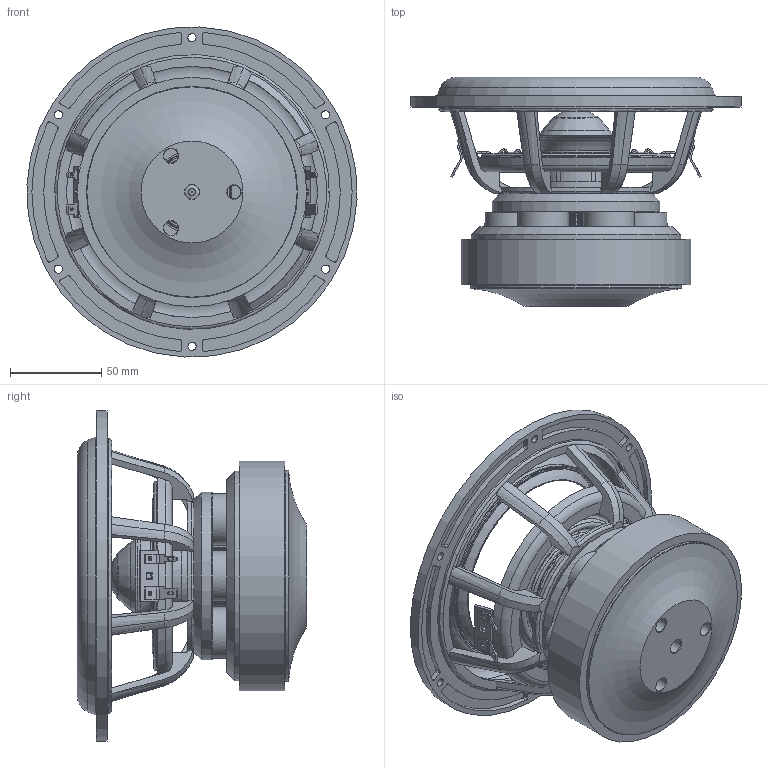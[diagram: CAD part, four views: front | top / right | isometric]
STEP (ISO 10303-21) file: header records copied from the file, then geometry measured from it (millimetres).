
FILE_DESCRIPTION(/* description */ (''),/* implementation_level */ '2;1');
FILE_NAME(/* name */ 'E180HE-44.step',/* time_stamp */ '2025-07-10T14:50:55-04:00',/* author */ (''),/* organization */ (''),/* preprocessor_version */ 'ST-DEVELOPER v20.1',/* originating_system */ 'Autodesk Translation Framework v14.10.0.0',/* authorisation */ '');
FILE_SCHEMA (('AUTOMOTIVE_DESIGN { 1 0 10303 214 3 1 1 }'));
Length unit declared in the file: millimetre
Products named in the file (2): 7-Z-P-T_ASM; 7-JIE-XAIN-BAN
Assembly tree (1 placements, depth 2):
  7-Z-P-T_ASM
    7-JIE-XAIN-BAN
Bounding box: 181.33 x 126.03 x 181.33 mm (x, y, z)
Volume: 685068.6 mm3; surface area: 232340.9 mm2
Topology: 3 solids, 4 shells, 770 faces, 2136 edges, 1348 vertices
Faces by surface type: plane 281, cylinder 158, torus 135, cone 114, bspline 80, sphere 2
Full cylindrical faces by diameter (mm): 3 x2, 3.789 x1, 4.5 x10, 5 x6, 5.2 x8, 6 x2, 7.3 x6, 7.5 x1, 8 x3, 28 x6, 30.5 x1, 36.4 x1, 36.9 x1, 38.9 x1, 39 x1, 41.35 x1, 42.6 x2, 43.6 x1, 51 x1, 53 x1, 92 x1, 105 x1, 115 x2, 115.9 x1, 116 x1, 126 x1, 150.5 x1, 151.5 x1, 157.5 x1, 158.5 x1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
Entity records: 41088 total; most frequent: CARTESIAN_POINT 21371, ORIENTED_EDGE 4276, DIRECTION 3990, EDGE_CURVE 2138, AXIS2_PLACEMENT_3D 1609, VERTEX_POINT 1356, EDGE_LOOP 898, CIRCLE 883
